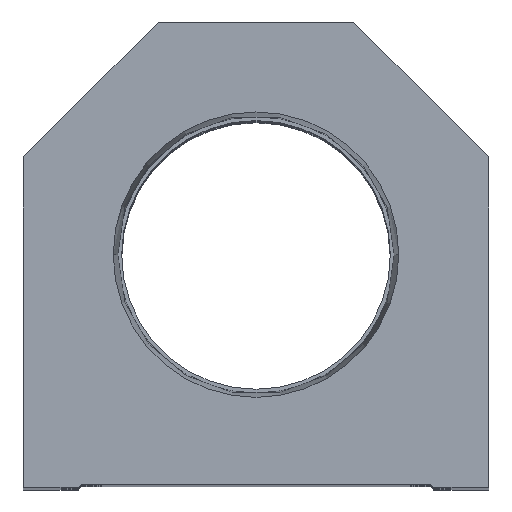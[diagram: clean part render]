
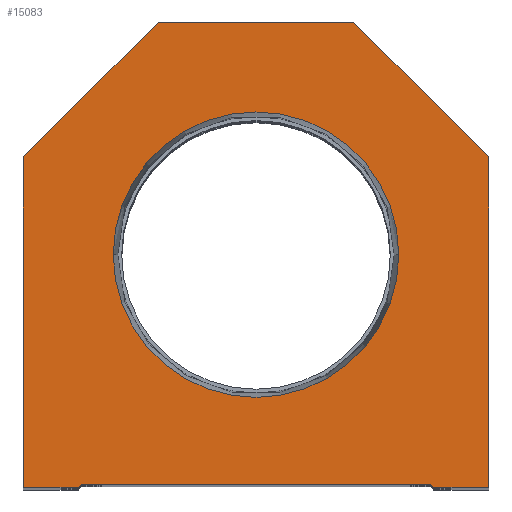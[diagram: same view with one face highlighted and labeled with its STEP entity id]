
A CAD part, top view. The second image highlights one B-rep face of the part: STEP entity #15083.
In plain terms, the highlighted planar face has unit normal (0, 0, 1).
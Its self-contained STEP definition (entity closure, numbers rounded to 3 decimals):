
#378 = VERTEX_POINT ( 'NONE', #17099 ) ;
#466 = VERTEX_POINT ( 'NONE', #10763 ) ;
#482 = CARTESIAN_POINT ( 'NONE',  ( 38.1, 0., 0. ) ) ;
#862 = VECTOR ( 'NONE', #8481, 1000. ) ;
#1431 = CARTESIAN_POINT ( 'NONE',  ( 38.1, 54.1, 0. ) ) ;
#1998 = VERTEX_POINT ( 'NONE', #9573 ) ;
#2035 = DIRECTION ( 'NONE',  ( 0., 0., 1. ) ) ;
#2083 = VECTOR ( 'NONE', #7815, 1000. ) ;
#2128 = VERTEX_POINT ( 'NONE', #12198 ) ;
#2151 = VECTOR ( 'NONE', #12246, 1000. ) ;
#2357 = DIRECTION ( 'NONE',  ( 0., -1., 0. ) ) ;
#2833 = CARTESIAN_POINT ( 'NONE',  ( 0., 38.1, 0. ) ) ;
#3822 = EDGE_CURVE ( 'NONE', #10343, #466, #11141, .T. ) ;
#4207 = VERTEX_POINT ( 'NONE', #11030 ) ;
#4791 = VERTEX_POINT ( 'NONE', #10295 ) ;
#4849 = ORIENTED_EDGE ( 'NONE', *, *, #16397, .F. ) ;
#5243 = PLANE ( 'NONE',  #10667 ) ;
#5244 = VECTOR ( 'NONE', #13577, 1000. ) ;
#5266 = CARTESIAN_POINT ( 'NONE',  ( 14.55, 14.55, 0. ) ) ;
#5295 = EDGE_LOOP ( 'NONE', ( #4849, #13813 ) ) ;
#5385 = DIRECTION ( 'NONE',  ( 0., 1., 0. ) ) ;
#5391 = CARTESIAN_POINT ( 'NONE',  ( -38.1, 0., 0. ) ) ;
#5552 = FACE_OUTER_BOUND ( 'NONE', #13883, .T. ) ;
#6061 = ORIENTED_EDGE ( 'NONE', *, *, #17335, .T. ) ;
#6246 = VERTEX_POINT ( 'NONE', #5391 ) ;
#6641 = VERTEX_POINT ( 'NONE', #13110 ) ;
#6908 = DIRECTION ( 'NONE',  ( 1., 0., 0. ) ) ;
#7006 = LINE ( 'NONE', #18469, #17506 ) ;
#7104 = LINE ( 'NONE', #482, #12660 ) ;
#7129 = ORIENTED_EDGE ( 'NONE', *, *, #7541, .T. ) ;
#7170 = CARTESIAN_POINT ( 'NONE',  ( -38.1, 0., 0. ) ) ;
#7513 = ORIENTED_EDGE ( 'NONE', *, *, #20197, .T. ) ;
#7541 = EDGE_CURVE ( 'NONE', #12885, #2128, #11583, .T. ) ;
#7815 = DIRECTION ( 'NONE',  ( -0.707, 0.707, 0. ) ) ;
#8359 = VERTEX_POINT ( 'NONE', #1431 ) ;
#8481 = DIRECTION ( 'NONE',  ( 0.707, -0.707, 0. ) ) ;
#8513 = CARTESIAN_POINT ( 'NONE',  ( 0., 38.1, 0. ) ) ;
#8564 = DIRECTION ( 'NONE',  ( 1., 0., 0. ) ) ;
#8885 = DIRECTION ( 'NONE',  ( 0.707, 0.707, 0. ) ) ;
#8934 = EDGE_CURVE ( 'NONE', #2128, #16399, #19237, .T. ) ;
#8960 = CARTESIAN_POINT ( 'NONE',  ( -28.6, 0., 0. ) ) ;
#9302 = AXIS2_PLACEMENT_3D ( 'NONE', #8513, #15081, #6908 ) ;
#9573 = CARTESIAN_POINT ( 'NONE',  ( -38.1, 54.1, 0. ) ) ;
#9707 = CARTESIAN_POINT ( 'NONE',  ( -28.6, 0.5, 0. ) ) ;
#9994 = EDGE_CURVE ( 'NONE', #4791, #8359, #7104, .T. ) ;
#10295 = CARTESIAN_POINT ( 'NONE',  ( 38.1, 0., 0. ) ) ;
#10343 = VERTEX_POINT ( 'NONE', #20880 ) ;
#10441 = CARTESIAN_POINT ( 'NONE',  ( -29.1, 0., 0. ) ) ;
#10667 = AXIS2_PLACEMENT_3D ( 'NONE', #20030, #11794, #8564 ) ;
#10700 = LINE ( 'NONE', #13929, #17254 ) ;
#10734 = LINE ( 'NONE', #14075, #2151 ) ;
#10763 = CARTESIAN_POINT ( 'NONE',  ( 23.374, 38.1, 0. ) ) ;
#10883 = ORIENTED_EDGE ( 'NONE', *, *, #15766, .T. ) ;
#11030 = CARTESIAN_POINT ( 'NONE',  ( 16., 76.2, 0. ) ) ;
#11141 = CIRCLE ( 'NONE', #14931, 23.374 ) ;
#11583 = LINE ( 'NONE', #15455, #20815 ) ;
#11689 = LINE ( 'NONE', #7170, #20570 ) ;
#11749 = ORIENTED_EDGE ( 'NONE', *, *, #9994, .T. ) ;
#11794 = DIRECTION ( 'NONE',  ( 0., 0., 1. ) ) ;
#12097 = ORIENTED_EDGE ( 'NONE', *, *, #19797, .T. ) ;
#12159 = DIRECTION ( 'NONE',  ( -1., 0., 0. ) ) ;
#12198 = CARTESIAN_POINT ( 'NONE',  ( -28.6, 0.5, 0. ) ) ;
#12246 = DIRECTION ( 'NONE',  ( 1., 0., 0. ) ) ;
#12640 = ORIENTED_EDGE ( 'NONE', *, *, #8934, .T. ) ;
#12660 = VECTOR ( 'NONE', #5385, 1000. ) ;
#12885 = VERTEX_POINT ( 'NONE', #10441 ) ;
#13087 = CIRCLE ( 'NONE', #9302, 23.374 ) ;
#13110 = CARTESIAN_POINT ( 'NONE',  ( 29.1, 0., 0. ) ) ;
#13111 = CARTESIAN_POINT ( 'NONE',  ( 28.6, 0.5, 0. ) ) ;
#13577 = DIRECTION ( 'NONE',  ( 1., 0., 0. ) ) ;
#13813 = ORIENTED_EDGE ( 'NONE', *, *, #3822, .F. ) ;
#13883 = EDGE_LOOP ( 'NONE', ( #12097, #7129, #12640, #16833, #6061, #11749, #15962, #20562, #7513, #10883 ) ) ;
#13929 = CARTESIAN_POINT ( 'NONE',  ( -38.1, 54.1, 0. ) ) ;
#14075 = CARTESIAN_POINT ( 'NONE',  ( 28.6, 0., 0. ) ) ;
#14613 = EDGE_CURVE ( 'NONE', #4207, #378, #7006, .T. ) ;
#14931 = AXIS2_PLACEMENT_3D ( 'NONE', #2833, #2035, #21158 ) ;
#15081 = DIRECTION ( 'NONE',  ( 0., 0., 1. ) ) ;
#15083 = ADVANCED_FACE ( 'NONE', ( #16936, #5552 ), #5243, .T. ) ;
#15455 = CARTESIAN_POINT ( 'NONE',  ( -14.55, 14.55, 0. ) ) ;
#15766 = EDGE_CURVE ( 'NONE', #1998, #6246, #11689, .T. ) ;
#15857 = EDGE_CURVE ( 'NONE', #8359, #4207, #17579, .T. ) ;
#15962 = ORIENTED_EDGE ( 'NONE', *, *, #15857, .T. ) ;
#16029 = VECTOR ( 'NONE', #16054, 1000. ) ;
#16054 = DIRECTION ( 'NONE',  ( 1., 0., 0. ) ) ;
#16397 = EDGE_CURVE ( 'NONE', #466, #10343, #13087, .T. ) ;
#16399 = VERTEX_POINT ( 'NONE', #13111 ) ;
#16758 = LINE ( 'NONE', #5266, #862 ) ;
#16833 = ORIENTED_EDGE ( 'NONE', *, *, #20898, .T. ) ;
#16936 = FACE_BOUND ( 'NONE', #5295, .T. ) ;
#17002 = LINE ( 'NONE', #8960, #5244 ) ;
#17099 = CARTESIAN_POINT ( 'NONE',  ( -16., 76.2, 0. ) ) ;
#17247 = DIRECTION ( 'NONE',  ( -0.707, -0.707, 0. ) ) ;
#17254 = VECTOR ( 'NONE', #17247, 1000. ) ;
#17335 = EDGE_CURVE ( 'NONE', #6641, #4791, #10734, .T. ) ;
#17506 = VECTOR ( 'NONE', #12159, 1000. ) ;
#17579 = LINE ( 'NONE', #19160, #2083 ) ;
#18469 = CARTESIAN_POINT ( 'NONE',  ( 16., 76.2, 0. ) ) ;
#19160 = CARTESIAN_POINT ( 'NONE',  ( 38.1, 54.1, 0. ) ) ;
#19237 = LINE ( 'NONE', #9707, #16029 ) ;
#19797 = EDGE_CURVE ( 'NONE', #6246, #12885, #17002, .T. ) ;
#20030 = CARTESIAN_POINT ( 'NONE',  ( 0., 0., 0. ) ) ;
#20197 = EDGE_CURVE ( 'NONE', #378, #1998, #10700, .T. ) ;
#20562 = ORIENTED_EDGE ( 'NONE', *, *, #14613, .T. ) ;
#20570 = VECTOR ( 'NONE', #2357, 1000. ) ;
#20815 = VECTOR ( 'NONE', #8885, 1000. ) ;
#20880 = CARTESIAN_POINT ( 'NONE',  ( -23.374, 38.1, 0. ) ) ;
#20898 = EDGE_CURVE ( 'NONE', #16399, #6641, #16758, .T. ) ;
#21158 = DIRECTION ( 'NONE',  ( 1., 0., 0. ) ) ;
